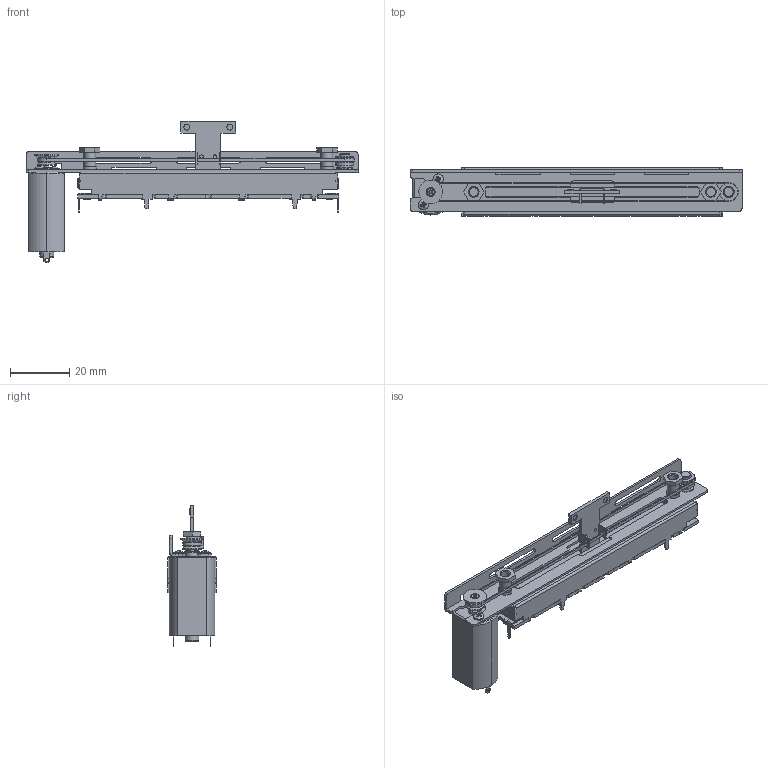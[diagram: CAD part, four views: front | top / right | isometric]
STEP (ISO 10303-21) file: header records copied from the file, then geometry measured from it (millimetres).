
FILE_DESCRIPTION(('FreeCAD Model'),'2;1');
FILE_NAME('Open CASCADE Shape Model','2023-03-17T15:48:07',(''),(''), 'Open CASCADE STEP processor 7.6','FreeCAD','Unknown');
FILE_SCHEMA(('AUTOMOTIVE_DESIGN { 1 0 10303 214 1 1 1 1 }'));
Products named in the file (1): Fusion002021
Bounding box: 112 x 16.5 x 47.8 mm (x, y, z)
Volume: 18523 mm3; surface area: 11156.9 mm2
Topology: 1 solids, 10 shells, 937 faces, 2464 edges, 1573 vertices
Faces by surface type: plane 649, cylinder 243, cone 31, torus 12, sphere 2
Full cylindrical faces by diameter (mm): 0.5 x15, 1.2 x6, 1.25 x2, 1.3 x1, 1.5 x6, 1.7 x8, 2 x9, 3 x8, 3.2 x2, 3.5 x5, 3.7 x1, 4 x3, 4.5 x2, 4.7 x2, 5 x2, 5.38 x1, 5.6 x1, 6 x2, 6.5 x1, 8 x1
Entity records: 64969 total; most frequent: CARTESIAN_POINT 13468, DIRECTION 8176, ORIENTED_EDGE 4928, PCURVE 4924, DEFINITIONAL_REPRESENTATION 4924, LINE 4671, VECTOR 4671, EDGE_CURVE 2462
